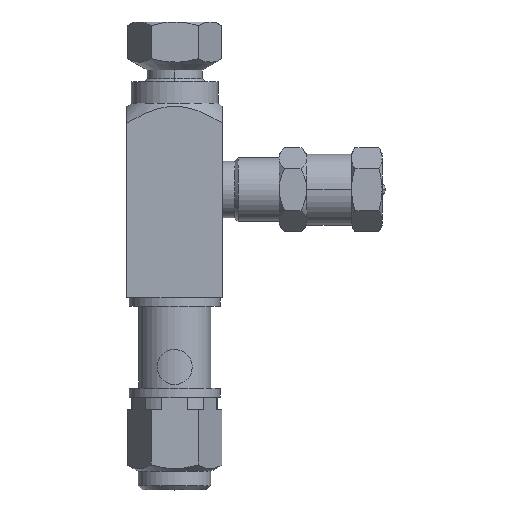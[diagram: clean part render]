
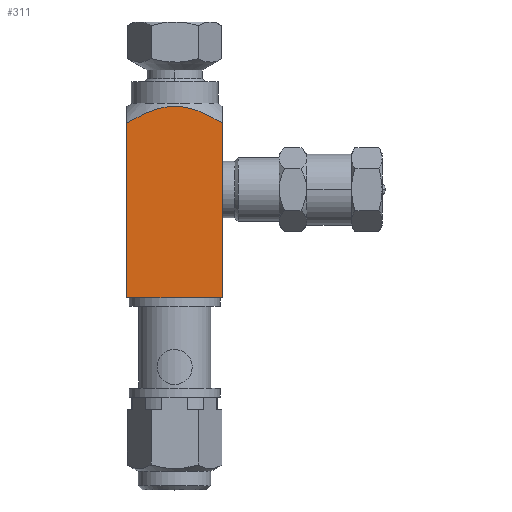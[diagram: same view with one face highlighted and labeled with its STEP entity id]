
A CAD part, top view. The second image highlights one B-rep face of the part: STEP entity #311.
In plain terms, the highlighted planar face has unit normal (0, 0, 1).
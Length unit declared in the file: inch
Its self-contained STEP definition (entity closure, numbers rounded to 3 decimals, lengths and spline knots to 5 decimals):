
#21=CARTESIAN_POINT('',(-0.33,1.20309,0.));
#23=DIRECTION('',(0.,1.,0.));
#24=VECTOR('',#23,1.20309);
#25=CARTESIAN_POINT('',(-0.33,0.,0.));
#26=LINE('',#25,#24);
#65=CARTESIAN_POINT('',(-0.33,1.20309,0.));
#66=CARTESIAN_POINT('',(-0.30961,1.21527,0.));
#67=CARTESIAN_POINT('',(-0.2706,1.23747,0.));
#68=CARTESIAN_POINT('',(-0.21773,1.26411,0.));
#69=CARTESIAN_POINT('',(-0.16966,1.28474,0.));
#70=CARTESIAN_POINT('',(-0.12526,1.30012,0.));
#71=CARTESIAN_POINT('',(-0.08289,1.31098,0.));
#72=CARTESIAN_POINT('',(-0.04132,1.31755,0.));
#73=CARTESIAN_POINT('',(-0.00004,1.31976,0.));
#74=CARTESIAN_POINT('',(0.04123,1.31756,0.));
#75=CARTESIAN_POINT('',(0.08277,1.311,0.));
#76=CARTESIAN_POINT('',(0.12513,1.30016,0.));
#77=CARTESIAN_POINT('',(0.1694,1.28483,0.));
#78=CARTESIAN_POINT('',(0.2174,1.26426,0.));
#79=CARTESIAN_POINT('',(0.27042,1.23758,0.));
#80=CARTESIAN_POINT('',(0.30954,1.21532,0.));
#81=CARTESIAN_POINT('',(0.33,1.20309,0.));
#83=DIRECTION('',(0.,-1.,0.));
#84=VECTOR('',#83,1.20309);
#85=CARTESIAN_POINT('',(0.33,1.20309,0.));
#86=LINE('',#85,#84);
#87=DIRECTION('',(-1.,0.,0.));
#88=VECTOR('',#87,0.66);
#89=CARTESIAN_POINT('',(0.33,0.,0.));
#90=LINE('',#89,#88);
#214=CARTESIAN_POINT('',(-0.33,0.,0.));
#216=VERTEX_POINT('',#214);
#219=CARTESIAN_POINT('',(0.33,0.,0.));
#220=VERTEX_POINT('',#219);
#239=VERTEX_POINT('',#21);
#241=VERTEX_POINT('',#81);
#298=CARTESIAN_POINT('',(1.038,0.,0.));
#299=DIRECTION('',(0.,0.,1.));
#300=DIRECTION('',(0.,1.,0.));
#301=AXIS2_PLACEMENT_3D('',#298,#299,#300);
#302=PLANE('',#301);
#304=ORIENTED_EDGE('',*,*,#303,.T.);
#306=ORIENTED_EDGE('',*,*,#305,.T.);
#307=ORIENTED_EDGE('',*,*,#291,.T.);
#308=ORIENTED_EDGE('',*,*,#260,.T.);
#309=EDGE_LOOP('',(#304,#306,#307,#308));
#310=FACE_OUTER_BOUND('',#309,.F.);
#311=ADVANCED_FACE('',(#310),#302,.T.);
#82=B_SPLINE_CURVE_WITH_KNOTS('',3,(#65,#66,#67,#68,#69,#70,#71,#72,#73,#74,#75,
#76,#77,#78,#79,#80,#81),.UNSPECIFIED.,.F.,.F.,(4,1,1,1,1,1,1,1,1,1,1,1,1,1,4),(
0.,0.07143,0.14286,0.21429,0.28571,
0.35714,0.42857,0.5,0.57143,0.64286,
0.71429,0.78571,0.85714,0.92857,1.),
.UNSPECIFIED.);
#260=EDGE_CURVE('',#216,#239,#26,.T.);
#291=EDGE_CURVE('',#220,#216,#90,.T.);
#303=EDGE_CURVE('',#239,#241,#82,.T.);
#305=EDGE_CURVE('',#241,#220,#86,.T.);
